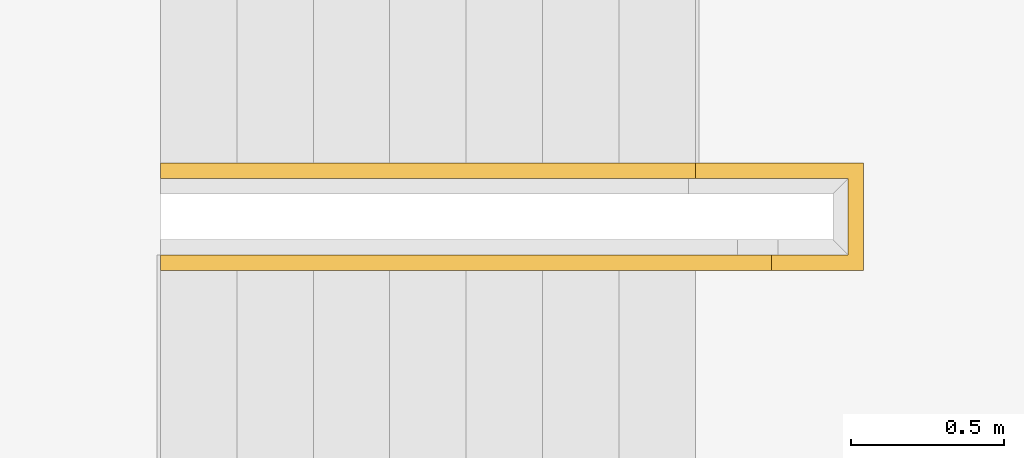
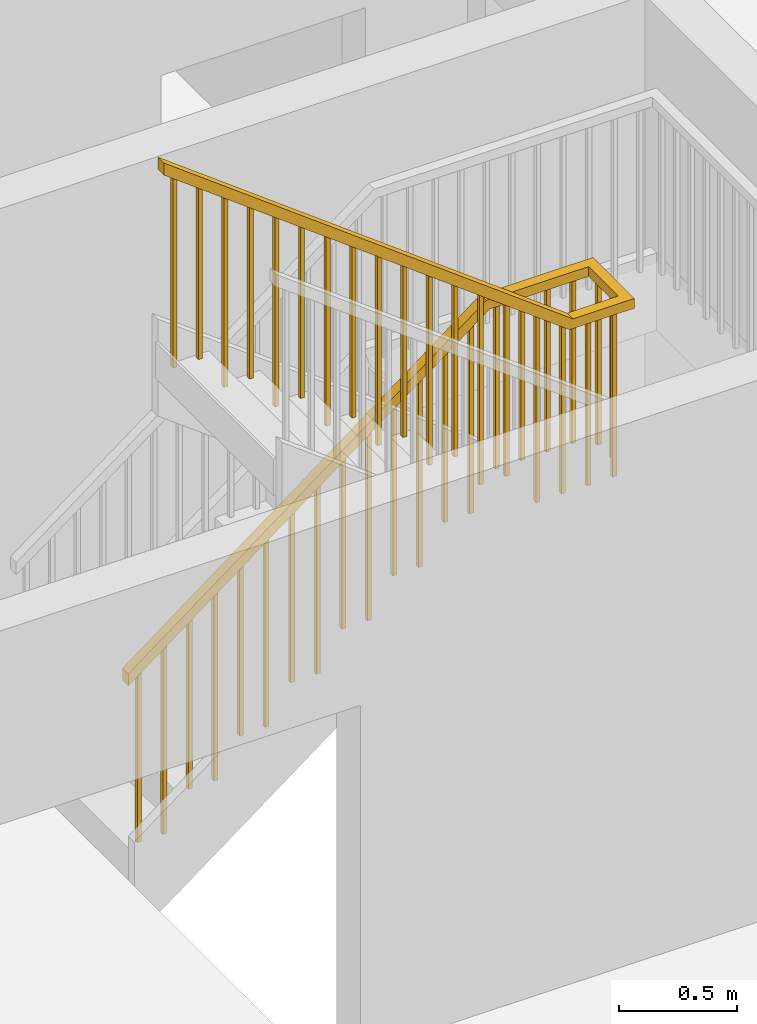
# One storey, part 3 of 3: 1 railing, 1 element without a shape of its own.
"""IFC2X3 building model written with IfcOpenShell, lengths in metres."""

import ifcopenshell
import ifcopenshell.guid

model = None  # the IFC model being written
_history = None  # IfcOwnerHistory: only IFC2X3 demands one
_inside = {}  # id of a spatial element -> (the spatial element, [elements in it])
_under = {}  # id of a project, library or spatial element -> (it, [spatial elements below it])
_declared = {}  # id of a project -> (the project, [libraries it declares])
_typed = {}  # id of a type object -> (the type object, [elements of that type])
_made_of = {}  # id of a material, layer set ... -> (it, [elements and type objects made of it])


def new_model(schema):
    """Start an empty IFC model of exactly this schema.

    Asked for "IFC4X3", IfcOpenShell would pick the latest addendum, in which some entities
    have other attributes; the version numbers below select the first issue.
    IFC2X3 requires an IfcOwnerHistory on every rooted entity: one is made here for all.
    """
    global model, _history
    if schema == "IFC4X3":
        model = ifcopenshell.file(schema_version=(4, 3, 0, 0))
    else:
        model = ifcopenshell.file(schema=schema)
    _inside.clear()
    _under.clear()
    _declared.clear()
    _typed.clear()
    _made_of.clear()
    _history = None
    if model.schema == "IFC2X3":
        org = make("IfcOrganization", Name="unknown")
        user = make(
            "IfcPersonAndOrganization",
            ThePerson=make("IfcPerson", FamilyName="unknown"),
            TheOrganization=org,
        )
        app = make(
            "IfcApplication",
            ApplicationDeveloper=org,
            Version="unknown",
            ApplicationFullName="unknown",
            ApplicationIdentifier="unknown",
        )
        _history = make(
            "IfcOwnerHistory",
            OwningUser=user,
            OwningApplication=app,
            ChangeAction="ADDED",
            CreationDate=0,
        )
    return model


def make(cls, **values):
    """One entity of the class cls with the attributes given. An attribute that is None is left unset."""
    return model.create_entity(
        cls, **{name: value for name, value in values.items() if value is not None}
    )


def entity(cls, *values):
    """Any entity or typed value of the class cls, its attributes in the order of the schema. None: left unset."""
    e = model.create_entity(cls)
    for i, value in enumerate(values):
        if value is not None:
            e[i] = value
    return e


def rooted(cls, **values):
    """An entity with a GlobalId (a new one), such as an element, a storey or a relation."""
    return make(cls, GlobalId=ifcopenshell.guid.new(), OwnerHistory=_history, **values)


def si_unit(unit_type, name, prefix=None):
    """IfcSIUnit, for example si_unit("LENGTHUNIT", "METRE", prefix="MILLI")."""
    return make("IfcSIUnit", UnitType=unit_type, Prefix=prefix, Name=name)


def converted_unit(unit_type, name, factor, base, dimensions=None, offset=None):
    """IfcConversionBasedUnit, such as the inch: factor (a typed value) times the base unit."""
    return make(
        "IfcConversionBasedUnit"
        if offset is None
        else "IfcConversionBasedUnitWithOffset",
        ConversionOffset=offset,
        Dimensions=None
        if dimensions is None
        else entity("IfcDimensionalExponents", *dimensions),
        UnitType=unit_type,
        Name=name,
        ConversionFactor=make(
            "IfcMeasureWithUnit", ValueComponent=factor, UnitComponent=base
        ),
    )


def derived_unit(unit_type, elements):
    """IfcDerivedUnit: a product of units, each with its exponent."""
    return make(
        "IfcDerivedUnit",
        Elements=[
            make("IfcDerivedUnitElement", Unit=unit, Exponent=power)
            for unit, power in elements
        ],
        UnitType=unit_type,
    )


def assignment(units):
    """IfcUnitAssignment: the units of a project."""
    return None if units is None else make("IfcUnitAssignment", Units=units)


def point(xyz):
    """IfcCartesianPoint."""
    return None if xyz is None else make("IfcCartesianPoint", Coordinates=xyz)


def direction(xyz):
    """IfcDirection."""
    return None if xyz is None else make("IfcDirection", DirectionRatios=xyz)


def frame(location, z_axis=None, x_axis=None):
    """IfcAxis2Placement3D, a coordinate frame: its origin and axes. An axis left out is left unset."""
    return make(
        "IfcAxis2Placement3D",
        Location=point(location),
        Axis=direction(z_axis),
        RefDirection=direction(x_axis),
    )


def origin():
    """The frame at (0, 0, 0) with its axes left unset."""
    return frame((0.0, 0.0, 0.0))


def place(relative_to, where):
    """IfcLocalPlacement: puts the frame where relative to a parent placement (None: the world)."""
    return make(
        "IfcLocalPlacement", PlacementRelTo=relative_to, RelativePlacement=where
    )


def context(
    kind, dimensions, precision=None, world=None, true_north=None, identifier=None
):
    """IfcGeometricRepresentationContext, for example the 3D "Model" context."""
    return make(
        "IfcGeometricRepresentationContext",
        ContextIdentifier=identifier,
        ContextType=kind,
        CoordinateSpaceDimension=dimensions,
        Precision=precision,
        WorldCoordinateSystem=world,
        TrueNorth=true_north,
    )


def subcontext(parent, identifier, kind, view, scale=None):
    """IfcGeometricRepresentationSubContext, for example "Body" below "Model"."""
    return make(
        "IfcGeometricRepresentationSubContext",
        ContextIdentifier=identifier,
        ContextType=kind,
        ParentContext=parent,
        TargetScale=scale,
        TargetView=view,
    )


def project(units=None, contexts=None):
    """IfcProject with its units and contexts."""
    return rooted(
        "IfcProject",
        Name="project",
        RepresentationContexts=contexts,
        UnitsInContext=assignment(units),
    )


def spatial(cls, under=None, at=None, **own):
    """A site, building, storey or space (cls), placed at a placement, below another one or the project."""
    s = rooted(cls, ObjectPlacement=at, **own)
    if under is not None:
        _under.setdefault(under.id(), (under, []))[1].append(s)
    return s


def faces_of(points, faces, orient=None, outer=None):
    """IfcFace entities. A face is a list of loops; a loop is a list of indices into points, from 0.

    orient and outer hold one flag for each loop. By default every Orientation is true, the
    first loop of a face is its IfcFaceOuterBound and the others are IfcFaceBound.
    """
    made = []
    for i, loops in enumerate(faces):
        bounds = []
        for j, loop in enumerate(loops):
            is_outer = j == 0 if outer is None else outer[i][j]
            bounds.append(
                make(
                    "IfcFaceOuterBound" if is_outer else "IfcFaceBound",
                    Bound=make("IfcPolyLoop", Polygon=[points[k] for k in loop]),
                    Orientation=True if orient is None else orient[i][j],
                )
            )
        made.append(make("IfcFace", Bounds=bounds))
    return made


def faceted_brep(points, faces, orient=None, outer=None, voids=None):
    """IfcFacetedBrep: a solid bounded by flat faces; with voids (closed shells), ...WithVoids."""
    shared = [point(p) for p in points]
    hull = make("IfcClosedShell", CfsFaces=faces_of(shared, faces, orient, outer))
    if voids is None:
        return make("IfcFacetedBrep", Outer=hull)
    return make(
        "IfcFacetedBrepWithVoids",
        Outer=hull,
        Voids=[
            make(cls, CfsFaces=faces_of(shared, fs, o, b)) for cls, fs, o, b in voids
        ],
    )


def shape(context_of_items, identifier, shape_type, items):
    """IfcShapeRepresentation: the items that make up one representation, for example the "Body"."""
    return make(
        "IfcShapeRepresentation",
        ContextOfItems=context_of_items,
        RepresentationIdentifier=identifier,
        RepresentationType=shape_type,
        Items=items,
    )


def made_of(thing, what):
    """Note that an element or type object is made of a material, layer set ...; save() writes the relation."""
    if what is not None:
        _made_of.setdefault(what.id(), (what, []))[1].append(thing)
    return thing


def element(
    cls,
    number,
    at=None,
    inside=None,
    cuts=None,
    type_object=None,
    material=None,
    context=None,
    identifier="Body",
    shape_type=None,
    held_by="IfcProductDefinitionShape",
    body=None,
    shapes=None,
    **own,
):
    """One element of the class cls, such as IfcWall. Its Tag is "e" and its number.

    at: its placement. inside: the storey or other place that contains it. cuts: it is an
    opening in that element (IfcRelVoidsElement). A single representation is given by context,
    identifier, shape_type and body (its items); several are given by shapes. held_by: the class
    of the entity that holds the representations. save() writes the other relations.
    """
    e = rooted(cls, Tag="e%d" % number, ObjectPlacement=at, **own)
    if body is not None:
        shapes = [shape(context, identifier, shape_type, body)]
    if shapes is not None:
        e.Representation = make(held_by, Representations=shapes)
    if inside is not None:
        _inside.setdefault(inside.id(), (inside, []))[1].append(e)
    if cuts is not None:
        rooted(
            "IfcRelVoidsElement", RelatingBuildingElement=cuts, RelatedOpeningElement=e
        )
    if type_object is not None:
        _typed.setdefault(type_object.id(), (type_object, []))[1].append(e)
    return made_of(e, material)


def aggregate(whole, parts):
    """IfcRelAggregates: a whole, such as a stair, and the parts it consists of."""
    return rooted("IfcRelAggregates", RelatingObject=whole, RelatedObjects=parts)


def save(model, path):
    """Write the relations noted so far, then the file.

    IfcRelAggregates (storeys below a building ...), IfcRelContainedInSpatialStructure (elements
    in a storey), IfcRelDefinesByType, IfcRelAssociatesMaterial and IfcRelDeclares: one each for
    every whole, place, type object, material and project.
    """
    for whole, parts in _under.values():
        aggregate(whole, parts)
    for where, things in _inside.values():
        rooted(
            "IfcRelContainedInSpatialStructure",
            RelatedElements=things,
            RelatingStructure=where,
        )
    for kind, things in _typed.values():
        rooted("IfcRelDefinesByType", RelatedObjects=things, RelatingType=kind)
    for what, things in _made_of.values():
        rooted("IfcRelAssociatesMaterial", RelatedObjects=things, RelatingMaterial=what)
    for by, libraries in _declared.values():
        rooted("IfcRelDeclares", RelatingContext=by, RelatedDefinitions=libraries)
    model.write(path)


model = new_model("IFC2X3")

# Units and contexts
model_context = context("Model", 3, precision=1e-05, world=origin(), true_north=direction((6.12303176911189e-17, 1.0)))
context_of_model = context(None, 3, precision=1e-05, world=origin(), true_north=direction((6.12303176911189e-17, 1.0)))
body_context = subcontext(model_context, "Body", "Model", "MODEL_VIEW")
ifc_project = project(units=[si_unit("LENGTHUNIT", "METRE"), si_unit("AREAUNIT", "SQUARE_METRE"), si_unit("VOLUMEUNIT", "CUBIC_METRE"), converted_unit("PLANEANGLEUNIT", "DEGREE", entity("IfcRatioMeasure", 0.0174532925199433), si_unit("PLANEANGLEUNIT", "RADIAN"), dimensions=[0, 0, 0, 0, 0, 0, 0]), si_unit("MASSUNIT", "GRAM", prefix="KILO"), derived_unit("MASSDENSITYUNIT", [(si_unit("MASSUNIT", "GRAM", prefix="KILO"), 1), (si_unit("LENGTHUNIT", "METRE"), -3)]), si_unit("TIMEUNIT", "SECOND"), si_unit("FREQUENCYUNIT", "HERTZ"), si_unit("THERMODYNAMICTEMPERATUREUNIT", "DEGREE_CELSIUS"), derived_unit("THERMALTRANSMITTANCEUNIT", [(si_unit("MASSUNIT", "GRAM", prefix="KILO"), 1), (si_unit("THERMODYNAMICTEMPERATUREUNIT", "KELVIN"), -1), (si_unit("TIMEUNIT", "SECOND"), -3)]), derived_unit("VOLUMETRICFLOWRATEUNIT", [(si_unit("LENGTHUNIT", "METRE"), 3), (si_unit("TIMEUNIT", "SECOND"), -1)]), si_unit("ELECTRICCURRENTUNIT", "AMPERE"), si_unit("ELECTRICVOLTAGEUNIT", "VOLT"), si_unit("POWERUNIT", "WATT"), si_unit("FORCEUNIT", "NEWTON"), si_unit("ILLUMINANCEUNIT", "LUX"), si_unit("LUMINOUSFLUXUNIT", "LUMEN"), si_unit("LUMINOUSINTENSITYUNIT", "CANDELA"), derived_unit("USERDEFINED", [(si_unit("MASSUNIT", "GRAM", prefix="KILO"), -1), (si_unit("LENGTHUNIT", "METRE"), -2), (si_unit("TIMEUNIT", "SECOND"), 3), (si_unit("LUMINOUSFLUXUNIT", "LUMEN"), 1)]), derived_unit("LINEARVELOCITYUNIT", [(si_unit("LENGTHUNIT", "METRE"), 1), (si_unit("TIMEUNIT", "SECOND"), -1)]), si_unit("PRESSUREUNIT", "PASCAL"), derived_unit("USERDEFINED", [(si_unit("LENGTHUNIT", "METRE"), -2), (si_unit("MASSUNIT", "GRAM", prefix="KILO"), 1), (si_unit("TIMEUNIT", "SECOND"), -2)])], contexts=[model_context, context_of_model])

# Site, building, storey
site_placement = place(None, origin())
site = spatial("IfcSite", under=ifc_project, at=site_placement, Name="Default", CompositionType="ELEMENT")
building_placement = place(site_placement, origin())
building = spatial("IfcBuilding", under=site, at=building_placement, CompositionType="ELEMENT")
storey_placement = place(building_placement, origin())
storey = spatial("IfcBuildingStorey", under=building, at=storey_placement, Name="Rez de Chaussée", CompositionType="ELEMENT", Elevation=0.0)

# Stair, railing
stair_placement = place(storey_placement, origin())
stair = element("IfcStair", 1, at=stair_placement, inside=storey, Name="Escalier assemblé:Escalier", ObjectType="Escalier assemblé:Contremarche 190 mm max marche 250\xa0mm", ShapeType="NOTDEFINED")
railing_placement = place(stair_placement, frame((5.53266399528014, 0.961410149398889, 0.364705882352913)))
railing = element("IfcRailing", 2, at=railing_placement, Name="Garde-corps:900mm", ObjectType="Garde-corps:900mm", PredefinedType="NOTDEFINED", context=body_context, shape_type="Brep", body=[
    faceted_brep([(0.0725000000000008, 0.0150000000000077, 3.60635283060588), (0.0725000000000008, 0.0150000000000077, 2.63529411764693), (0.0725000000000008, 0.0350000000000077, 2.63529411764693), (0.0725000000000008, 0.0350000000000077, 3.60635283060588), (0.0525000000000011, 0.0350000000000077, 2.63529411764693), (0.0525000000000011, 0.0350000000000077, 3.6214116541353), (0.0525000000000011, 0.0150000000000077, 2.63529411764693), (0.0525000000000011, 0.0150000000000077, 3.6214116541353)], [[[0, 1, 2, 3]], [[3, 2, 4, 5]], [[5, 4, 6, 7]], [[1, 0, 7, 6]], [[0, 3, 5, 7]], [[2, 1, 6, 4]]]),
    faceted_brep([(0.197500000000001, 0.0150000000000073, 3.51223518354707), (0.197500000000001, 0.0150000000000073, 2.63529411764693), (0.197500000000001, 0.0350000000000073, 2.63529411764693), (0.197500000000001, 0.0350000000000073, 3.51223518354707), (0.177500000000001, 0.0350000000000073, 2.63529411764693), (0.177500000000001, 0.0350000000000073, 3.52729400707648), (0.177500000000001, 0.0150000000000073, 2.63529411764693), (0.177500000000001, 0.0150000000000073, 3.52729400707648)], [[[0, 1, 2, 3]], [[3, 2, 4, 5]], [[5, 4, 6, 7]], [[1, 0, 7, 6]], [[0, 3, 5, 7]], [[2, 1, 6, 4]]]),
    faceted_brep([(0.3225, 0.0150000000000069, 3.41811753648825), (0.3225, 0.0150000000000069, 2.44705882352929), (0.3225, 0.0350000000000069, 2.44705882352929), (0.3225, 0.0350000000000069, 3.41811753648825), (0.302500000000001, 0.0350000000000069, 2.44705882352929), (0.302500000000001, 0.0350000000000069, 3.43317636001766), (0.302500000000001, 0.0150000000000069, 2.44705882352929), (0.302500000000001, 0.0150000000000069, 3.43317636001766)], [[[0, 1, 2, 3]], [[3, 2, 4, 5]], [[5, 4, 6, 7]], [[1, 0, 7, 6]], [[0, 3, 5, 7]], [[2, 1, 6, 4]]]),
    faceted_brep([(0.447500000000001, 0.0150000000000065, 3.32399988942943), (0.447500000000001, 0.0150000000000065, 2.44705882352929), (0.447500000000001, 0.0350000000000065, 2.44705882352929), (0.447500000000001, 0.0350000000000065, 3.32399988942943), (0.427500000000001, 0.0350000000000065, 2.44705882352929), (0.427500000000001, 0.0350000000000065, 3.33905871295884), (0.427500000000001, 0.0150000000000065, 2.44705882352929), (0.427500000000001, 0.0150000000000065, 3.33905871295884)], [[[0, 1, 2, 3]], [[3, 2, 4, 5]], [[5, 4, 6, 7]], [[1, 0, 7, 6]], [[0, 3, 5, 7]], [[2, 1, 6, 4]]]),
    faceted_brep([(0.572500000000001, 0.0150000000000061, 3.22988224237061), (0.572500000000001, 0.0150000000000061, 2.25882352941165), (0.572500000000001, 0.0350000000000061, 2.25882352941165), (0.572500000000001, 0.0350000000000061, 3.22988224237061), (0.552500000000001, 0.0350000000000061, 2.25882352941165), (0.552500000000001, 0.0350000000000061, 3.24494106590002), (0.552500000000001, 0.0150000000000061, 2.25882352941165), (0.552500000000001, 0.0150000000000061, 3.24494106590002)], [[[0, 1, 2, 3]], [[3, 2, 4, 5]], [[5, 4, 6, 7]], [[1, 0, 7, 6]], [[0, 3, 5, 7]], [[2, 1, 6, 4]]]),
    faceted_brep([(0.697500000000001, 0.0150000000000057, 3.13576459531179), (0.697500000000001, 0.0150000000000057, 2.25882352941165), (0.697500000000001, 0.0350000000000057, 2.25882352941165), (0.697500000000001, 0.0350000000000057, 3.13576459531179), (0.677500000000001, 0.0350000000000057, 2.25882352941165), (0.677500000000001, 0.0350000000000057, 3.1508234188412), (0.677500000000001, 0.0150000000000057, 2.25882352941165), (0.677500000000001, 0.0150000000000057, 3.1508234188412)], [[[0, 1, 2, 3]], [[3, 2, 4, 5]], [[5, 4, 6, 7]], [[1, 0, 7, 6]], [[0, 3, 5, 7]], [[2, 1, 6, 4]]]),
    faceted_brep([(0.8225, 0.0150000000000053, 3.04164694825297), (0.8225, 0.0150000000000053, 2.07058823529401), (0.8225, 0.0350000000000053, 2.07058823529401), (0.8225, 0.0350000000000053, 3.04164694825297), (0.802500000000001, 0.0350000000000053, 2.07058823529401), (0.802500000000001, 0.0350000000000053, 3.05670577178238), (0.802500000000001, 0.0150000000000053, 2.07058823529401), (0.802500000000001, 0.0150000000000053, 3.05670577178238)], [[[0, 1, 2, 3]], [[3, 2, 4, 5]], [[5, 4, 6, 7]], [[1, 0, 7, 6]], [[0, 3, 5, 7]], [[2, 1, 6, 4]]]),
    faceted_brep([(0.947500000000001, 0.0150000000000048, 2.94752930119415), (0.947500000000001, 0.0150000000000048, 2.07058823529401), (0.947500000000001, 0.0350000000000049, 2.07058823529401), (0.947500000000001, 0.0350000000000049, 2.94752930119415), (0.927500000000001, 0.0350000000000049, 2.07058823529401), (0.927500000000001, 0.0350000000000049, 2.96258812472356), (0.927500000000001, 0.0150000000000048, 2.07058823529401), (0.927500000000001, 0.0150000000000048, 2.96258812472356)], [[[0, 1, 2, 3]], [[3, 2, 4, 5]], [[5, 4, 6, 7]], [[1, 0, 7, 6]], [[0, 3, 5, 7]], [[2, 1, 6, 4]]]),
    faceted_brep([(1.0725, 0.0150000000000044, 2.85341165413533), (1.0725, 0.0150000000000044, 1.88235294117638), (1.0725, 0.0350000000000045, 1.88235294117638), (1.0725, 0.0350000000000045, 2.85341165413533), (1.0525, 0.0350000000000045, 1.88235294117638), (1.0525, 0.0350000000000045, 2.86847047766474), (1.0525, 0.0150000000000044, 1.88235294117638), (1.0525, 0.0150000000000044, 2.86847047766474)], [[[0, 1, 2, 3]], [[3, 2, 4, 5]], [[5, 4, 6, 7]], [[1, 0, 7, 6]], [[0, 3, 5, 7]], [[2, 1, 6, 4]]]),
    faceted_brep([(1.1975, 0.015000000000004, 2.75929400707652), (1.1975, 0.015000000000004, 1.88235294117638), (1.1975, 0.0350000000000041, 1.88235294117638), (1.1975, 0.0350000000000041, 2.75929400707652), (1.1775, 0.0350000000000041, 1.88235294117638), (1.1775, 0.0350000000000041, 2.77435283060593), (1.1775, 0.015000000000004, 1.88235294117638), (1.1775, 0.015000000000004, 2.77435283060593)], [[[0, 1, 2, 3]], [[3, 2, 4, 5]], [[5, 4, 6, 7]], [[1, 0, 7, 6]], [[0, 3, 5, 7]], [[2, 1, 6, 4]]]),
    faceted_brep([(1.3225, 0.0150000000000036, 2.6651763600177), (1.3225, 0.0150000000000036, 1.69411764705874), (1.3225, 0.0350000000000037, 1.69411764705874), (1.3225, 0.0350000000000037, 2.6651763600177), (1.3025, 0.0350000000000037, 1.69411764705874), (1.3025, 0.0350000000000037, 2.68023518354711), (1.3025, 0.0150000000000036, 1.69411764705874), (1.3025, 0.0150000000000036, 2.68023518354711)], [[[0, 1, 2, 3]], [[3, 2, 4, 5]], [[5, 4, 6, 7]], [[1, 0, 7, 6]], [[0, 3, 5, 7]], [[2, 1, 6, 4]]]),
    faceted_brep([(1.4475, 0.0150000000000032, 2.57105871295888), (1.4475, 0.0150000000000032, 1.69411764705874), (1.4475, 0.0350000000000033, 1.69411764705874), (1.4475, 0.0350000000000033, 2.57105871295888), (1.4275, 0.0350000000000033, 1.69411764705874), (1.4275, 0.0350000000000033, 2.58611753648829), (1.4275, 0.0150000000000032, 1.69411764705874), (1.4275, 0.0150000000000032, 2.58611753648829)], [[[0, 1, 2, 3]], [[3, 2, 4, 5]], [[5, 4, 6, 7]], [[1, 0, 7, 6]], [[0, 3, 5, 7]], [[2, 1, 6, 4]]]),
    faceted_brep([(1.5725, 0.0150000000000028, 2.47694106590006), (1.5725, 0.0150000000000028, 1.5058823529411), (1.5725, 0.0350000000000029, 1.5058823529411), (1.5725, 0.0350000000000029, 2.47694106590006), (1.5525, 0.0350000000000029, 1.5058823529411), (1.5525, 0.0350000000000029, 2.49199988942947), (1.5525, 0.0150000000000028, 1.5058823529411), (1.5525, 0.0150000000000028, 2.49199988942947)], [[[0, 1, 2, 3]], [[3, 2, 4, 5]], [[5, 4, 6, 7]], [[1, 0, 7, 6]], [[0, 3, 5, 7]], [[2, 1, 6, 4]]]),
    faceted_brep([(1.6975, 0.0150000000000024, 2.38282341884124), (1.6975, 0.0150000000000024, 1.5058823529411), (1.6975, 0.0350000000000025, 1.5058823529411), (1.6975, 0.0350000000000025, 2.38282341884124), (1.6775, 0.0350000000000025, 1.5058823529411), (1.6775, 0.0350000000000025, 2.39788224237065), (1.6775, 0.0150000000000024, 1.5058823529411), (1.6775, 0.0150000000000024, 2.39788224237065)], [[[0, 1, 2, 3]], [[3, 2, 4, 5]], [[5, 4, 6, 7]], [[1, 0, 7, 6]], [[0, 3, 5, 7]], [[2, 1, 6, 4]]]),
    faceted_brep([(1.8479, 0.015000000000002, 2.26958106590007), (1.8479, 0.015000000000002, 1.31764705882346), (1.8479, 0.0350000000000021, 1.31764705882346), (1.8479, 0.0350000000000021, 2.26958106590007), (1.8279, 0.0350000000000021, 1.31764705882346), (1.8279, 0.0350000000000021, 2.28463988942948), (1.8279, 0.015000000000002, 1.31764705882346), (1.8279, 0.015000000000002, 2.28463988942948)], [[[0, 1, 2, 3]], [[3, 2, 4, 5]], [[5, 4, 6, 7]], [[1, 0, 7, 6]], [[0, 3, 5, 7]], [[2, 1, 6, 4]]]),
    faceted_brep([(1.9729, 0.0150000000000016, 2.17546341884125), (1.9729, 0.0150000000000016, 1.31764705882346), (1.9729, 0.0350000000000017, 1.31764705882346), (1.9729, 0.0350000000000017, 2.17546341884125), (1.9529, 0.0350000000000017, 1.31764705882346), (1.9529, 0.0350000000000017, 2.19052224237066), (1.9529, 0.0150000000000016, 1.31764705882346), (1.9529, 0.0150000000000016, 2.19052224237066)], [[[0, 1, 2, 3]], [[3, 2, 4, 5]], [[5, 4, 6, 7]], [[1, 0, 7, 6]], [[0, 3, 5, 7]], [[2, 1, 6, 4]]]),
    faceted_brep([(2.0979, 0.0150000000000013, 2.16764705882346), (2.0979, 0.0150000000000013, 1.31764705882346), (2.0979, 0.0350000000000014, 1.31764705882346), (2.0979, 0.0350000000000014, 2.16764705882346), (2.0779, 0.0350000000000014, 1.31764705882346), (2.0779, 0.0350000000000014, 2.16764705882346), (2.0779, 0.0150000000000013, 1.31764705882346), (2.0779, 0.0150000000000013, 2.16764705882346)], [[[0, 1, 2, 3]], [[3, 2, 4, 5]], [[5, 4, 6, 7]], [[1, 0, 7, 6]], [[0, 3, 5, 7]], [[2, 1, 6, 4]]]),
    faceted_brep([(2.2229, 0.0150000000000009, 2.16764705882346), (2.2229, 0.0150000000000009, 1.31764705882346), (2.2229, 0.035000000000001, 1.31764705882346), (2.2229, 0.035000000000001, 2.16764705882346), (2.2029, 0.035000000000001, 1.31764705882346), (2.2029, 0.035000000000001, 2.16764705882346), (2.2029, 0.0150000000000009, 1.31764705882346), (2.2029, 0.0150000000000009, 2.16764705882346)], [[[0, 1, 2, 3]], [[3, 2, 4, 5]], [[5, 4, 6, 7]], [[1, 0, 7, 6]], [[0, 3, 5, 7]], [[2, 1, 6, 4]]]),
    faceted_brep([(2.2854, 0.14830000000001, 2.16764705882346), (2.2854, 0.14830000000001, 1.31764705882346), (2.2654, 0.14830000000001, 1.31764705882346), (2.2654, 0.14830000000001, 2.16764705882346), (2.2654, 0.12830000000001, 1.31764705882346), (2.2654, 0.12830000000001, 2.16764705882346), (2.2854, 0.12830000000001, 1.31764705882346), (2.2854, 0.12830000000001, 2.16764705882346)], [[[0, 1, 2, 3]], [[3, 2, 4, 5]], [[5, 4, 6, 7]], [[1, 0, 7, 6]], [[0, 3, 5, 7]], [[2, 1, 6, 4]]]),
    faceted_brep([(2.2854, 0.27330000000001, 2.16764705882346), (2.2854, 0.27330000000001, 1.31764705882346), (2.2654, 0.27330000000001, 1.31764705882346), (2.2654, 0.27330000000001, 2.16764705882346), (2.2654, 0.25330000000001, 1.31764705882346), (2.2654, 0.25330000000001, 2.16764705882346), (2.2854, 0.25330000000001, 1.31764705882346), (2.2854, 0.25330000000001, 2.16764705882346)], [[[0, 1, 2, 3]], [[3, 2, 4, 5]], [[5, 4, 6, 7]], [[1, 0, 7, 6]], [[0, 3, 5, 7]], [[2, 1, 6, 4]]]),
    faceted_brep([(2.1775, 0.33580000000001, 2.16764705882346), (2.1775, 0.33580000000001, 1.31764705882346), (2.1775, 0.31580000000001, 1.31764705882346), (2.1775, 0.315800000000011, 2.16764705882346), (2.1975, 0.315800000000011, 1.31764705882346), (2.1975, 0.315800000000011, 2.16764705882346), (2.1975, 0.335800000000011, 1.31764705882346), (2.1975, 0.33580000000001, 2.16764705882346)], [[[0, 1, 2, 3]], [[3, 2, 4, 5]], [[5, 4, 6, 7]], [[1, 0, 7, 6]], [[0, 3, 5, 7]], [[2, 1, 6, 4]]]),
    faceted_brep([(2.0525, 0.335800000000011, 2.16764705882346), (2.0525, 0.335800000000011, 1.31764705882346), (2.0525, 0.315800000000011, 1.31764705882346), (2.0525, 0.315800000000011, 2.16764705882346), (2.0725, 0.315800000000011, 1.31764705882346), (2.0725, 0.315800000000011, 2.16764705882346), (2.0725, 0.335800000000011, 1.31764705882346), (2.0725, 0.335800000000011, 2.16764705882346)], [[[0, 1, 2, 3]], [[3, 2, 4, 5]], [[5, 4, 6, 7]], [[1, 0, 7, 6]], [[0, 3, 5, 7]], [[2, 1, 6, 4]]]),
    faceted_brep([(1.9275, 0.335800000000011, 2.16764705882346), (1.9275, 0.335800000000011, 1.31764705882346), (1.9275, 0.315800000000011, 1.31764705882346), (1.9275, 0.315800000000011, 2.16764705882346), (1.9475, 0.315800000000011, 1.31764705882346), (1.9475, 0.315800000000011, 2.16764705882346), (1.9475, 0.335800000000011, 1.31764705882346), (1.9475, 0.335800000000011, 2.16764705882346)], [[[0, 1, 2, 3]], [[3, 2, 4, 5]], [[5, 4, 6, 7]], [[1, 0, 7, 6]], [[0, 3, 5, 7]], [[2, 1, 6, 4]]]),
    faceted_brep([(1.8025, 0.335800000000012, 2.16764705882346), (1.8025, 0.335800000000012, 1.31764705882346), (1.8025, 0.315800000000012, 1.31764705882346), (1.8025, 0.315800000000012, 2.16764705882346), (1.8225, 0.315800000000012, 1.31764705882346), (1.8225, 0.315800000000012, 2.16764705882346), (1.8225, 0.335800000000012, 1.31764705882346), (1.8225, 0.335800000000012, 2.16764705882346)], [[[0, 1, 2, 3]], [[3, 2, 4, 5]], [[5, 4, 6, 7]], [[1, 0, 7, 6]], [[0, 3, 5, 7]], [[2, 1, 6, 4]]]),
    faceted_brep([(1.6775, 0.335800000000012, 2.10047047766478), (1.6775, 0.335800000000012, 1.12941176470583), (1.6775, 0.315800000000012, 1.12941176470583), (1.6775, 0.315800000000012, 2.10047047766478), (1.6975, 0.315800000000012, 1.12941176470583), (1.6975, 0.315800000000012, 2.11552930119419), (1.6975, 0.335800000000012, 1.12941176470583), (1.6975, 0.335800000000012, 2.11552930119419)], [[[0, 1, 2, 3]], [[3, 2, 4, 5]], [[5, 4, 6, 7]], [[1, 0, 7, 6]], [[0, 3, 5, 7]], [[2, 1, 6, 4]]]),
    faceted_brep([(1.5525, 0.335800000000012, 2.00635283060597), (1.5525, 0.335800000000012, 1.12941176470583), (1.5525, 0.315800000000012, 1.12941176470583), (1.5525, 0.315800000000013, 2.00635283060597), (1.5725, 0.315800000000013, 1.12941176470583), (1.5725, 0.315800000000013, 2.02141165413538), (1.5725, 0.335800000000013, 1.12941176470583), (1.5725, 0.335800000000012, 2.02141165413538)], [[[0, 1, 2, 3]], [[3, 2, 4, 5]], [[5, 4, 6, 7]], [[1, 0, 7, 6]], [[0, 3, 5, 7]], [[2, 1, 6, 4]]]),
    faceted_brep([(1.4275, 0.335800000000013, 1.91223518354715), (1.4275, 0.335800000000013, 0.941176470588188), (1.4275, 0.315800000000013, 0.941176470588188), (1.4275, 0.315800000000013, 1.91223518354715), (1.4475, 0.315800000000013, 0.941176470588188), (1.4475, 0.315800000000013, 1.92729400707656), (1.4475, 0.335800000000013, 0.941176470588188), (1.4475, 0.335800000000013, 1.92729400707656)], [[[0, 1, 2, 3]], [[3, 2, 4, 5]], [[5, 4, 6, 7]], [[1, 0, 7, 6]], [[0, 3, 5, 7]], [[2, 1, 6, 4]]]),
    faceted_brep([(1.3025, 0.335800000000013, 1.81811753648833), (1.3025, 0.335800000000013, 0.941176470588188), (1.3025, 0.315800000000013, 0.941176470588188), (1.3025, 0.315800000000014, 1.81811753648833), (1.3225, 0.315800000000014, 0.941176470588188), (1.3225, 0.315800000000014, 1.83317636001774), (1.3225, 0.335800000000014, 0.941176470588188), (1.3225, 0.335800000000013, 1.83317636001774)], [[[0, 1, 2, 3]], [[3, 2, 4, 5]], [[5, 4, 6, 7]], [[1, 0, 7, 6]], [[0, 3, 5, 7]], [[2, 1, 6, 4]]]),
    faceted_brep([(1.1775, 0.335800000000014, 1.72399988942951), (1.1775, 0.335800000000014, 0.75294117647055), (1.1775, 0.315800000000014, 0.75294117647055), (1.1775, 0.315800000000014, 1.72399988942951), (1.1975, 0.315800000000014, 0.75294117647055), (1.1975, 0.315800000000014, 1.73905871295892), (1.1975, 0.335800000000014, 0.75294117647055), (1.1975, 0.335800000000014, 1.73905871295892)], [[[0, 1, 2, 3]], [[3, 2, 4, 5]], [[5, 4, 6, 7]], [[1, 0, 7, 6]], [[0, 3, 5, 7]], [[2, 1, 6, 4]]]),
    faceted_brep([(1.0525, 0.335800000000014, 1.62988224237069), (1.0525, 0.335800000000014, 0.75294117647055), (1.0525, 0.315800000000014, 0.75294117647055), (1.0525, 0.315800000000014, 1.62988224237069), (1.0725, 0.315800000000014, 0.75294117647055), (1.0725, 0.315800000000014, 1.6449410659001), (1.0725, 0.335800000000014, 0.75294117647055), (1.0725, 0.335800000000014, 1.6449410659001)], [[[0, 1, 2, 3]], [[3, 2, 4, 5]], [[5, 4, 6, 7]], [[1, 0, 7, 6]], [[0, 3, 5, 7]], [[2, 1, 6, 4]]]),
    faceted_brep([(0.927499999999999, 0.335800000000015, 1.53576459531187), (0.927499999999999, 0.335800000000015, 0.564705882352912), (0.927499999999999, 0.315800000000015, 0.564705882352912), (0.927499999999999, 0.315800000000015, 1.53576459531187), (0.947499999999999, 0.315800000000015, 0.564705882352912), (0.947499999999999, 0.315800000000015, 1.55082341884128), (0.947499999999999, 0.335800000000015, 0.564705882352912), (0.947499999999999, 0.335800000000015, 1.55082341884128)], [[[0, 1, 2, 3]], [[3, 2, 4, 5]], [[5, 4, 6, 7]], [[1, 0, 7, 6]], [[0, 3, 5, 7]], [[2, 1, 6, 4]]]),
    faceted_brep([(0.8025, 0.335800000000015, 1.44164694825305), (0.8025, 0.335800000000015, 0.564705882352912), (0.8025, 0.315800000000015, 0.564705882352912), (0.8025, 0.315800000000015, 1.44164694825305), (0.822499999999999, 0.315800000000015, 0.564705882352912), (0.822499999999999, 0.315800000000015, 1.45670577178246), (0.822499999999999, 0.335800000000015, 0.564705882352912), (0.822499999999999, 0.335800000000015, 1.45670577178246)], [[[0, 1, 2, 3]], [[3, 2, 4, 5]], [[5, 4, 6, 7]], [[1, 0, 7, 6]], [[0, 3, 5, 7]], [[2, 1, 6, 4]]]),
    faceted_brep([(0.677499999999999, 0.335800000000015, 1.34752930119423), (0.677499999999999, 0.335800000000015, 0.376470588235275), (0.677499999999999, 0.315800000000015, 0.376470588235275), (0.677499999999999, 0.315800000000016, 1.34752930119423), (0.697499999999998, 0.315800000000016, 0.376470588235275), (0.697499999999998, 0.315800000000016, 1.36258812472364), (0.697499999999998, 0.335800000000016, 0.376470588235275), (0.697499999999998, 0.335800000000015, 1.36258812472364)], [[[0, 1, 2, 3]], [[3, 2, 4, 5]], [[5, 4, 6, 7]], [[1, 0, 7, 6]], [[0, 3, 5, 7]], [[2, 1, 6, 4]]]),
    faceted_brep([(0.552499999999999, 0.335800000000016, 1.25341165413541), (0.552499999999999, 0.335800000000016, 0.376470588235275), (0.552499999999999, 0.315800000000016, 0.376470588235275), (0.552499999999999, 0.315800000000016, 1.25341165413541), (0.572499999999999, 0.315800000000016, 0.376470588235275), (0.572499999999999, 0.315800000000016, 1.26847047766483), (0.572499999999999, 0.335800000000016, 0.376470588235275), (0.572499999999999, 0.335800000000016, 1.26847047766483)], [[[0, 1, 2, 3]], [[3, 2, 4, 5]], [[5, 4, 6, 7]], [[1, 0, 7, 6]], [[0, 3, 5, 7]], [[2, 1, 6, 4]]]),
    faceted_brep([(0.427499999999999, 0.335800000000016, 1.1592940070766), (0.427499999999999, 0.335800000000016, 0.188235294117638), (0.427499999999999, 0.315800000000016, 0.188235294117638), (0.427499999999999, 0.315800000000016, 1.1592940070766), (0.447499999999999, 0.315800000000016, 0.188235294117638), (0.447499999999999, 0.315800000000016, 1.17435283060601), (0.447499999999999, 0.335800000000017, 0.188235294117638), (0.447499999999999, 0.335800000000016, 1.17435283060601)], [[[0, 1, 2, 3]], [[3, 2, 4, 5]], [[5, 4, 6, 7]], [[1, 0, 7, 6]], [[0, 3, 5, 7]], [[2, 1, 6, 4]]]),
    faceted_brep([(0.302499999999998, 0.335800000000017, 1.06517636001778), (0.302499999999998, 0.335800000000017, 0.188235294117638), (0.302499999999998, 0.315800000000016, 0.188235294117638), (0.302499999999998, 0.315800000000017, 1.06517636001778), (0.322499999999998, 0.315800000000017, 0.188235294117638), (0.322499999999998, 0.315800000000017, 1.08023518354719), (0.322499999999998, 0.335800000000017, 0.188235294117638), (0.322499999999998, 0.335800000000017, 1.08023518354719)], [[[0, 1, 2, 3]], [[3, 2, 4, 5]], [[5, 4, 6, 7]], [[1, 0, 7, 6]], [[0, 3, 5, 7]], [[2, 1, 6, 4]]]),
    faceted_brep([(0.177499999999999, 0.335800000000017, 0.971058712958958), (0.177499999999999, 0.335800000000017, 0.0), (0.177499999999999, 0.315800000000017, 0.0), (0.177499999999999, 0.315800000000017, 0.971058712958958), (0.197499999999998, 0.315800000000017, 0.0), (0.197499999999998, 0.315800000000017, 0.986117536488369), (0.197499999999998, 0.335800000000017, 0.0), (0.197499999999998, 0.335800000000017, 0.986117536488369)], [[[0, 1, 2, 3]], [[3, 2, 4, 5]], [[5, 4, 6, 7]], [[1, 0, 7, 6]], [[0, 3, 5, 7]], [[2, 1, 6, 4]]]),
    faceted_brep([(0.0524999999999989, 0.335800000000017, 0.87694106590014), (0.0524999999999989, 0.335800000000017, 0.0), (0.0524999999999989, 0.315800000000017, 0.0), (0.0524999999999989, 0.315800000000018, 0.87694106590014), (0.0724999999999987, 0.315800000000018, 0.0), (0.0724999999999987, 0.315800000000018, 0.891999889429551), (0.0724999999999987, 0.335800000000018, 0.0), (0.0724999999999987, 0.335800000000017, 0.891999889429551)], [[[0, 1, 2, 3]], [[3, 2, 4, 5]], [[5, 4, 6, 7]], [[1, 0, 7, 6]], [[0, 3, 5, 7]], [[2, 1, 6, 4]]]),
    faceted_brep([(0.0, 0.350800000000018, 0.9), (0.0, 0.350800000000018, 0.837411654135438), (0.0, 0.300800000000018, 0.837411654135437), (0.0, 0.300800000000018, 0.899999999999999), (1.75, 0.350800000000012, 2.21764705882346), (1.76671889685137, 0.350800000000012, 2.16764705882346), (1.76671889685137, 0.300800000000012, 2.16764705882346), (1.75, 0.300800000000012, 2.21764705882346), (2.3004, 0.35080000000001, 2.21764705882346), (2.3004, 0.35080000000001, 2.16764705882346), (2.2504, 0.300800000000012, 2.16764705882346), (2.2504, 0.30080000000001, 2.21764705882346), (2.3004, 0.0, 2.21764705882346), (2.3004, 0.0, 2.16764705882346), (2.2504, 0.0500000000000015, 2.16764705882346), (2.2504, 0.0500000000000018, 2.21764705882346), (2.0, 0.0, 2.21764705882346), (1.98328110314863, 0.0, 2.16764705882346), (1.98328110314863, 0.0500000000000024, 2.16764705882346), (2.0, 0.0500000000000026, 2.21764705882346), (1.75, 0.0, 2.4058823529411), (1.7199248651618, 0.0, 2.36593881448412), (1.7199248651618, 0.0500000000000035, 2.36593881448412), (1.75, 0.0500000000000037, 2.4058823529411), (0.0, 0.0, 3.72352941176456), (0.0, 0.0500000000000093, 3.72352941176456), (0.0, 0.0500000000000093, 3.6609410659), (0.0, 0.0, 3.6609410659)], [[[0, 1, 2, 3]], [[1, 0, 4, 5]], [[2, 1, 5, 6]], [[3, 2, 6, 7]], [[0, 3, 7, 4]], [[5, 4, 8, 9]], [[6, 5, 9, 10]], [[7, 6, 10, 11]], [[4, 7, 11, 8]], [[9, 8, 12, 13]], [[10, 9, 13, 14]], [[11, 10, 14, 15]], [[8, 11, 15, 12]], [[13, 12, 16, 17]], [[14, 13, 17, 18]], [[15, 14, 18, 19]], [[12, 15, 19, 16]], [[17, 16, 20, 21]], [[18, 17, 21, 22]], [[19, 18, 22, 23]], [[16, 19, 23, 20]], [[24, 25, 26, 27]], [[21, 20, 24, 27]], [[22, 21, 27, 26]], [[23, 22, 26, 25]], [[20, 23, 25, 24]]]),
])
aggregate(stair, [railing])

save(model, "model.ifc")
